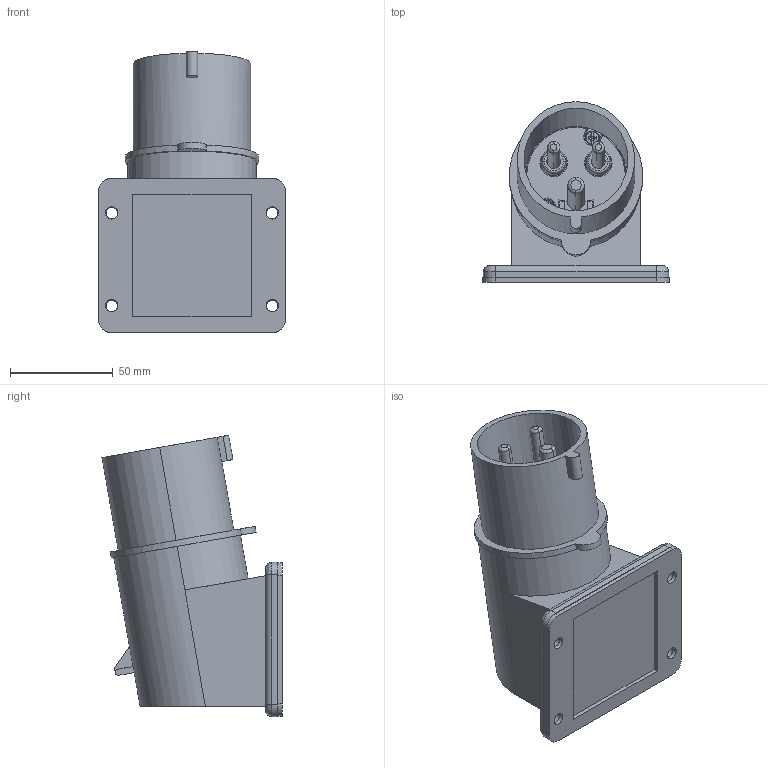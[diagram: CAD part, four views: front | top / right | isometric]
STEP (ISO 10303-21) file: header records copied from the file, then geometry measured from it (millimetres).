
FILE_DESCRIPTION((''),'2;1');
FILE_NAME('381_DUMMY_SW0001','2018-03-19T',('gisse'),('MENNEKES'),'PRO/ENGINEER BY PARAMETRIC TECHNOLOGY CORPORATION, 2015440','PRO/ENGINEER BY PARAMETRIC TECHNOLOGY CORPORATION, 2015440','');
FILE_SCHEMA(('AUTOMOTIVE_DESIGN { 1 0 10303 214 1 1 1 1 }'));
Length unit declared in the file: millimetre
Products named in the file (1): 381_DUMMY_SW0001
Bounding box: 90.6 x 87.52 x 136.72 mm (x, y, z)
Volume: 365888.6 mm3; surface area: 55758.4 mm2
Topology: 1 solids, 1 shells, 232 faces, 583 edges, 371 vertices
Faces by surface type: plane 101, cylinder 60, cone 30, torus 22, bspline 10, extrusion 5, sphere 4
Entity records: 10012 total; most frequent: CARTESIAN_POINT 1810, DIRECTION 1170, ORIENTED_EDGE 1156, EDGE_CURVE 578, AXIS2_PLACEMENT_3D 467, VERTEX_POINT 371, FILL_AREA_STYLE_COLOUR 362, FILL_AREA_STYLE 362
